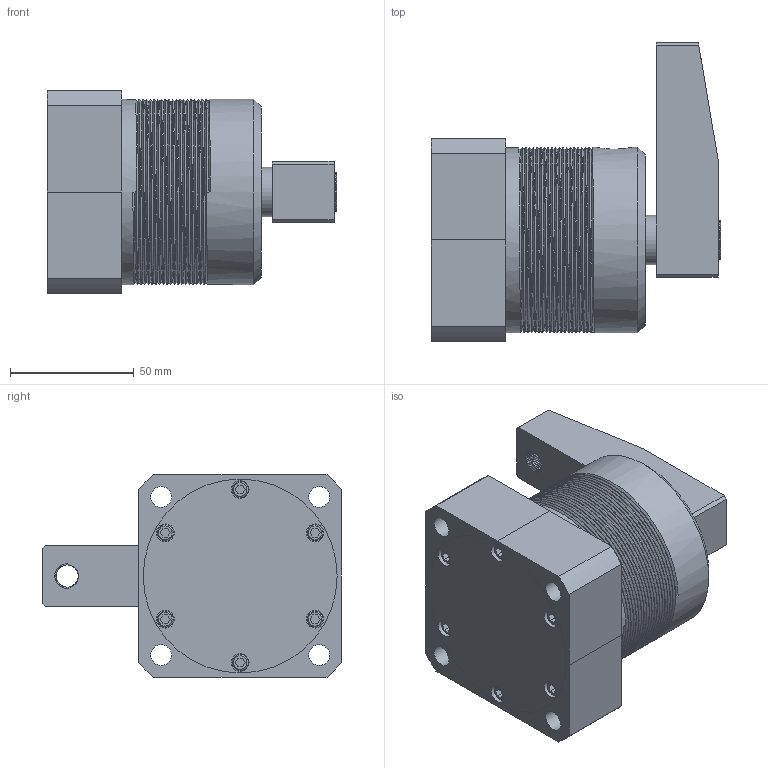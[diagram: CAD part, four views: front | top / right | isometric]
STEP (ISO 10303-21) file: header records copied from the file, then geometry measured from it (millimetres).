
FILE_DESCRIPTION(/* description */ (''),/* implementation_level */ '2;1');
FILE_NAME(/* name */ 'D:\Vault_2016\Projekty\STRONA\Pneumatic\Line ; Pipe connecct - type\cas-63s_asm\CAS-63SL-90_ZAMKNIETY.stp',/* time_stamp */ '2019-01-17T12:57:08+01:00',/* author */ ('user'),/* organization */ (''),/* preprocessor_version */ 'ST-DEVELOPER v17.2',/* originating_system */ 'Autodesk Inventor 2019',/* authorisation */ '');
FILE_SCHEMA (('AUTOMOTIVE_DESIGN { 1 0 10303 214 3 1 1 }'));
Products named in the file (7): CAS-63SL-90_ZAMKNIETY; CAS-63BT; CAS-63SHSG; CAS-63HG; M4; CAS-63SYB; M10LC
Assembly tree (11 placements, depth 2):
  CAS-63SL-90_ZAMKNIETY
    CAS-63BT
    CAS-63SHSG
    CAS-63HG
    M4  x6
    CAS-63SYB
    M10LC
Bounding box: 117 x 121 x 82 mm (x, y, z)
Volume: 381451 mm3; surface area: 111435.3 mm2
Topology: 11 solids, 11 shells, 536 faces, 1514 edges, 1029 vertices
Faces by surface type: cylinder 244, plane 130, bspline 115, cone 36, torus 11
Full cylindrical faces by diameter (mm): 2 x1, 2.077 x1, 3.2 x6, 4 x116, 4.5 x6, 6.5 x6, 7.2 x6, 8.2 x16, 8.5 x5, 9 x17, 10 x14, 11 x1, 14 x3, 16 x1, 17 x1, 20 x2, 53 x2, 63 x5, 75 x20, 78.5 x2
Entity records: 38242 total; most frequent: CARTESIAN_POINT 30942, ORIENTED_EDGE 1622, DIRECTION 1182, EDGE_CURVE 811, VERTEX_POINT 559, AXIS2_PLACEMENT_3D 443, EDGE_LOOP 354, B_SPLINE_CURVE_WITH_KNOTS 327
